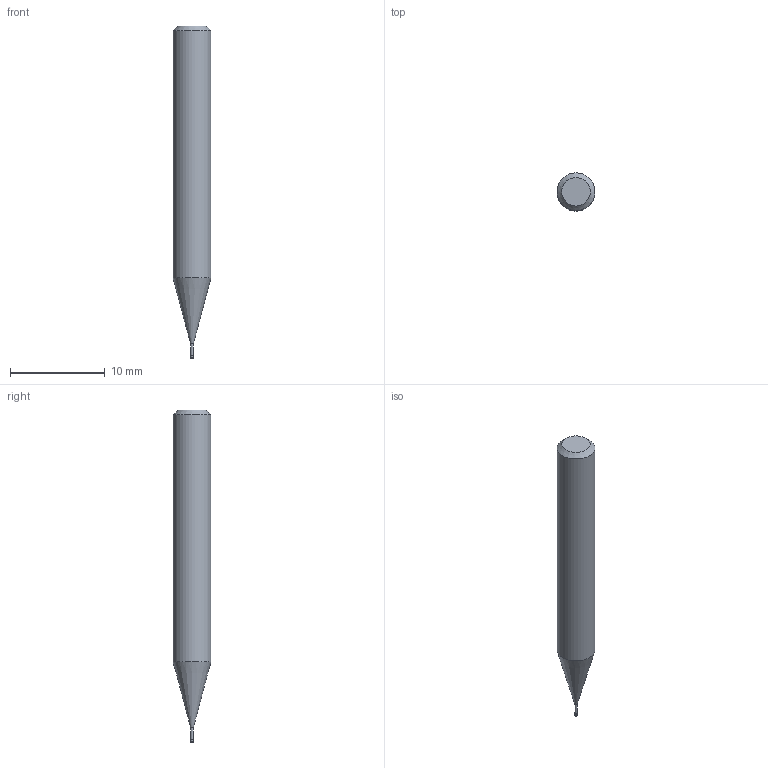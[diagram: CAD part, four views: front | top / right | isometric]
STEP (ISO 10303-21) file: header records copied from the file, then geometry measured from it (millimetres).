
FILE_DESCRIPTION((''),'2;1');
FILE_NAME('C:\Users\nsx150\AppData\Local\Temp\Mastercam 2021\80JYEHYUML\TEMP.step','2022-03-29T14:34:51',(''),(''),'STEP Write','Mastercam 2021 ... CNC Software, Inc.','');
FILE_SCHEMA(('AUTOMOTIVE_DESIGN'));
Length unit declared in the file: millimetre
Products named in the file (1): None
Bounding box: 4 x 4 x 35 mm (x, y, z)
Volume: 363.7 mm3; surface area: 392.1 mm2
Topology: 2 solids, 2 shells, 10 faces, 14 edges, 8 vertices
Faces by surface type: plane 4, cylinder 3, cone 2, torus 1
Full cylindrical faces by diameter (mm): 0.28 x1, 0.3 x1, 4 x1
Entity records: 232 total; most frequent: DIRECTION 40, CARTESIAN_POINT 28, AXIS2_PLACEMENT_3D 20, ORIENTED_EDGE 16, EDGE_LOOP 16, STYLED_ITEM 13, ADVANCED_FACE 10, FACE_BOUND 10
